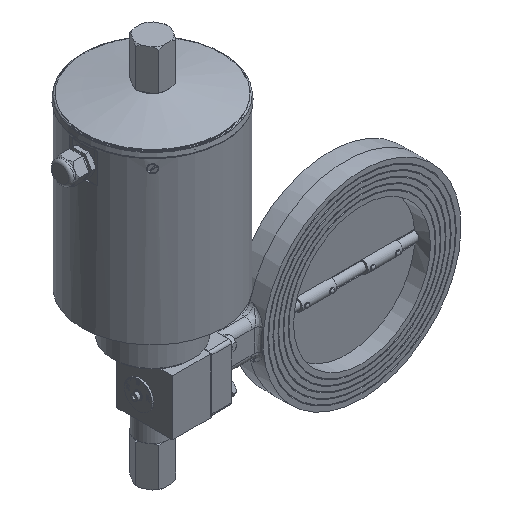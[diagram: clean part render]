
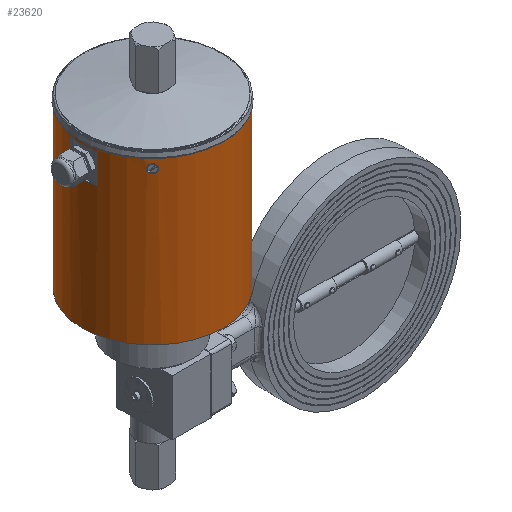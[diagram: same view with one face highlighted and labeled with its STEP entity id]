
A CAD part, isometric view. The second image highlights one B-rep face of the part: STEP entity #23620.
In plain terms, the highlighted cylindrical face has radius 76.2 mm (diameter 152.4 mm), a full revolution.
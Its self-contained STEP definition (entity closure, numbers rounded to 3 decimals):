
#369=CARTESIAN_POINT('',(-53.882,-11.382,250.7));
#370=VERTEX_POINT('',#369);
#371=CARTESIAN_POINT('',(-53.882,-11.382,241.3));
#372=VERTEX_POINT('',#371);
#373=CARTESIAN_POINT('',(-53.882,-11.382,250.7));
#374=CARTESIAN_POINT('',(-53.514,-11.749,250.7));
#375=CARTESIAN_POINT('',(-53.121,-12.134,250.604));
#376=CARTESIAN_POINT('',(-52.75,-12.49,250.408));
#377=CARTESIAN_POINT('',(-52.49,-12.739,250.27));
#378=CARTESIAN_POINT('',(-52.241,-12.974,250.086));
#379=CARTESIAN_POINT('',(-52.015,-13.186,249.865));
#380=CARTESIAN_POINT('',(-51.861,-13.329,249.715));
#381=CARTESIAN_POINT('',(-51.718,-13.462,249.549));
#382=CARTESIAN_POINT('',(-51.588,-13.581,249.373));
#383=CARTESIAN_POINT('',(-51.483,-13.678,249.23));
#384=CARTESIAN_POINT('',(-51.384,-13.768,249.079));
#385=CARTESIAN_POINT('',(-51.291,-13.853,248.915));
#386=CARTESIAN_POINT('',(-51.042,-14.08,248.477));
#387=CARTESIAN_POINT('',(-50.841,-14.259,247.959));
#388=CARTESIAN_POINT('',(-50.717,-14.37,247.415));
#389=CARTESIAN_POINT('',(-50.645,-14.435,247.101));
#390=CARTESIAN_POINT('',(-50.597,-14.477,246.779));
#391=CARTESIAN_POINT('',(-50.575,-14.497,246.462));
#392=CARTESIAN_POINT('',(-50.553,-14.516,246.157));
#393=CARTESIAN_POINT('',(-50.552,-14.517,245.863));
#394=CARTESIAN_POINT('',(-50.573,-14.498,245.559));
#395=CARTESIAN_POINT('',(-50.612,-14.464,244.999));
#396=CARTESIAN_POINT('',(-50.728,-14.361,244.425));
#397=CARTESIAN_POINT('',(-50.916,-14.192,243.903));
#398=CARTESIAN_POINT('',(-51.074,-14.05,243.467));
#399=CARTESIAN_POINT('',(-51.281,-13.863,243.068));
#400=CARTESIAN_POINT('',(-51.512,-13.651,242.734));
#401=CARTESIAN_POINT('',(-51.622,-13.551,242.575));
#402=CARTESIAN_POINT('',(-51.741,-13.441,242.425));
#403=CARTESIAN_POINT('',(-51.87,-13.321,242.284));
#404=CARTESIAN_POINT('',(-52.182,-13.031,241.945));
#405=CARTESIAN_POINT('',(-52.548,-12.686,241.673));
#406=CARTESIAN_POINT('',(-52.929,-12.318,241.506));
#407=CARTESIAN_POINT('',(-53.245,-12.012,241.367));
#408=CARTESIAN_POINT('',(-53.572,-11.691,241.3));
#409=CARTESIAN_POINT('',(-53.882,-11.382,241.3));
#410=B_SPLINE_CURVE_WITH_KNOTS('',3,(#373,#374,#375,#376,#377,#378,#379,#380,#381,#382,#383,#384,#385,#386,#387,#388,#389,#390,#391,#392,#393,#394,#395,#396,#397,#398,#399,#400,#401,#402,#403,#404,#405,#406,#407,#408,#409),.UNSPECIFIED.,.F.,.U.,(4,3,3,3,3,3,3,3,3,3,3,3,4),(0.698,0.854,0.963,1.037,1.097,1.258,1.351,1.44,1.603,1.74,1.805,1.963,2.094),.UNSPECIFIED.);
#411=EDGE_CURVE('',#370,#372,#410,.T.);
#413=CARTESIAN_POINT('',(-53.882,-11.382,241.3));
#414=CARTESIAN_POINT('',(-54.249,-11.014,241.3));
#415=CARTESIAN_POINT('',(-54.634,-10.621,241.396));
#416=CARTESIAN_POINT('',(-54.99,-10.25,241.592));
#417=CARTESIAN_POINT('',(-55.239,-9.99,241.73));
#418=CARTESIAN_POINT('',(-55.474,-9.741,241.914));
#419=CARTESIAN_POINT('',(-55.686,-9.515,242.135));
#420=CARTESIAN_POINT('',(-55.829,-9.361,242.285));
#421=CARTESIAN_POINT('',(-55.962,-9.218,242.451));
#422=CARTESIAN_POINT('',(-56.081,-9.088,242.627));
#423=CARTESIAN_POINT('',(-56.178,-8.983,242.77));
#424=CARTESIAN_POINT('',(-56.268,-8.884,242.921));
#425=CARTESIAN_POINT('',(-56.353,-8.791,243.085));
#426=CARTESIAN_POINT('',(-56.58,-8.542,243.523));
#427=CARTESIAN_POINT('',(-56.759,-8.341,244.041));
#428=CARTESIAN_POINT('',(-56.87,-8.217,244.585));
#429=CARTESIAN_POINT('',(-56.935,-8.145,244.899));
#430=CARTESIAN_POINT('',(-56.977,-8.097,245.221));
#431=CARTESIAN_POINT('',(-56.997,-8.075,245.538));
#432=CARTESIAN_POINT('',(-57.016,-8.053,245.843));
#433=CARTESIAN_POINT('',(-57.017,-8.052,246.137));
#434=CARTESIAN_POINT('',(-56.998,-8.073,246.441));
#435=CARTESIAN_POINT('',(-56.964,-8.112,247.001));
#436=CARTESIAN_POINT('',(-56.861,-8.228,247.575));
#437=CARTESIAN_POINT('',(-56.692,-8.416,248.097));
#438=CARTESIAN_POINT('',(-56.55,-8.574,248.533));
#439=CARTESIAN_POINT('',(-56.363,-8.781,248.932));
#440=CARTESIAN_POINT('',(-56.151,-9.012,249.266));
#441=CARTESIAN_POINT('',(-56.051,-9.122,249.425));
#442=CARTESIAN_POINT('',(-55.941,-9.241,249.575));
#443=CARTESIAN_POINT('',(-55.821,-9.37,249.716));
#444=CARTESIAN_POINT('',(-55.531,-9.682,250.055));
#445=CARTESIAN_POINT('',(-55.186,-10.048,250.327));
#446=CARTESIAN_POINT('',(-54.818,-10.429,250.494));
#447=CARTESIAN_POINT('',(-54.512,-10.745,250.633));
#448=CARTESIAN_POINT('',(-54.191,-11.072,250.7));
#449=CARTESIAN_POINT('',(-53.882,-11.382,250.7));
#450=B_SPLINE_CURVE_WITH_KNOTS('',3,(#413,#414,#415,#416,#417,#418,#419,#420,#421,#422,#423,#424,#425,#426,#427,#428,#429,#430,#431,#432,#433,#434,#435,#436,#437,#438,#439,#440,#441,#442,#443,#444,#445,#446,#447,#448,#449),.UNSPECIFIED.,.F.,.U.,(4,3,3,3,3,3,3,3,3,3,3,3,4),(2.094,2.25,2.359,2.433,2.493,2.654,2.747,2.836,2.999,3.136,3.202,3.359,3.49),.UNSPECIFIED.);
#451=EDGE_CURVE('',#372,#370,#450,.T.);
#23318=CARTESIAN_POINT('',(-74.709,27.5,253.));
#23319=VERTEX_POINT('',#23318);
#23326=CARTESIAN_POINT('',(-74.709,57.5,253.));
#23327=VERTEX_POINT('',#23326);
#23328=CARTESIAN_POINT('',(0.,42.5,253.));
#23329=DIRECTION('',(0.0,0.0,1.0));
#23330=DIRECTION('',(0.0,1.0,0.0));
#23331=AXIS2_PLACEMENT_3D('',#23328,#23329,#23330);
#23332=CIRCLE('',#23331,76.2);
#23333=EDGE_CURVE('',#23327,#23319,#23332,.T.);
#23357=CARTESIAN_POINT('',(-74.709,27.5,221.));
#23358=VERTEX_POINT('',#23357);
#23359=CARTESIAN_POINT('',(-74.709,27.5,253.));
#23360=DIRECTION('',(0.0,0.0,-1.0));
#23361=VECTOR('',#23360,32.0);
#23362=LINE('',#23359,#23361);
#23363=EDGE_CURVE('',#23319,#23358,#23362,.T.);
#23388=CARTESIAN_POINT('',(-74.709,57.5,221.));
#23389=VERTEX_POINT('',#23388);
#23390=CARTESIAN_POINT('',(-74.709,57.5,221.));
#23391=DIRECTION('',(0.0,0.0,1.0));
#23392=VECTOR('',#23391,32.);
#23393=LINE('',#23390,#23392);
#23394=EDGE_CURVE('',#23389,#23327,#23393,.T.);
#23419=CARTESIAN_POINT('',(0.,42.5,221.));
#23420=DIRECTION('',(0.0,0.0,-1.0));
#23421=DIRECTION('',(0.0,1.0,0.0));
#23422=AXIS2_PLACEMENT_3D('',#23419,#23420,#23421);
#23423=CIRCLE('',#23422,76.2);
#23424=EDGE_CURVE('',#23358,#23389,#23423,.T.);
#23567=CARTESIAN_POINT('',(0.,118.7,255.5));
#23568=VERTEX_POINT('',#23567);
#23569=CARTESIAN_POINT('',(0.,42.5,255.5));
#23570=DIRECTION('',(0.0,0.0,1.0));
#23571=DIRECTION('',(0.0,-1.0,0.0));
#23572=AXIS2_PLACEMENT_3D('',#23569,#23570,#23571);
#23573=CIRCLE('',#23572,76.2);
#23574=EDGE_CURVE('',#23568,#23568,#23573,.T.);
#23591=CARTESIAN_POINT('',(0.,42.5,81.));
#23592=DIRECTION('',(0.,0.,1.0));
#23593=DIRECTION('',(0.0,1.0,0.0));
#23594=AXIS2_PLACEMENT_3D('',#23591,#23592,#23593);
#23595=CYLINDRICAL_SURFACE('',#23594,76.2);
#23596=CARTESIAN_POINT('',(-76.2,42.5,81.));
#23597=VERTEX_POINT('',#23596);
#23598=CARTESIAN_POINT('',(0.,42.5,81.));
#23599=DIRECTION('',(0.0,0.0,-1.0));
#23600=DIRECTION('',(0.0,1.0,0.0));
#23601=AXIS2_PLACEMENT_3D('',#23598,#23599,#23600);
#23602=CIRCLE('',#23601,76.2);
#23603=EDGE_CURVE('',#23597,#23597,#23602,.T.);
#23604=ORIENTED_EDGE('',*,*,#23603,.F.);
#23605=EDGE_LOOP('',(#23604));
#23606=FACE_OUTER_BOUND('',#23605,.T.);
#23607=ORIENTED_EDGE('',*,*,#411,.T.);
#23608=ORIENTED_EDGE('',*,*,#451,.T.);
#23609=EDGE_LOOP('',(#23607,#23608));
#23610=FACE_BOUND('',#23609,.T.);
#23611=ORIENTED_EDGE('',*,*,#23424,.T.);
#23612=ORIENTED_EDGE('',*,*,#23394,.T.);
#23613=ORIENTED_EDGE('',*,*,#23333,.T.);
#23614=ORIENTED_EDGE('',*,*,#23363,.T.);
#23615=EDGE_LOOP('',(#23611,#23612,#23613,#23614));
#23616=FACE_BOUND('',#23615,.T.);
#23617=ORIENTED_EDGE('',*,*,#23574,.F.);
#23618=EDGE_LOOP('',(#23617));
#23619=FACE_BOUND('',#23618,.T.);
#23620=ADVANCED_FACE('',(#23606,#23610,#23616,#23619),#23595,.T.);
